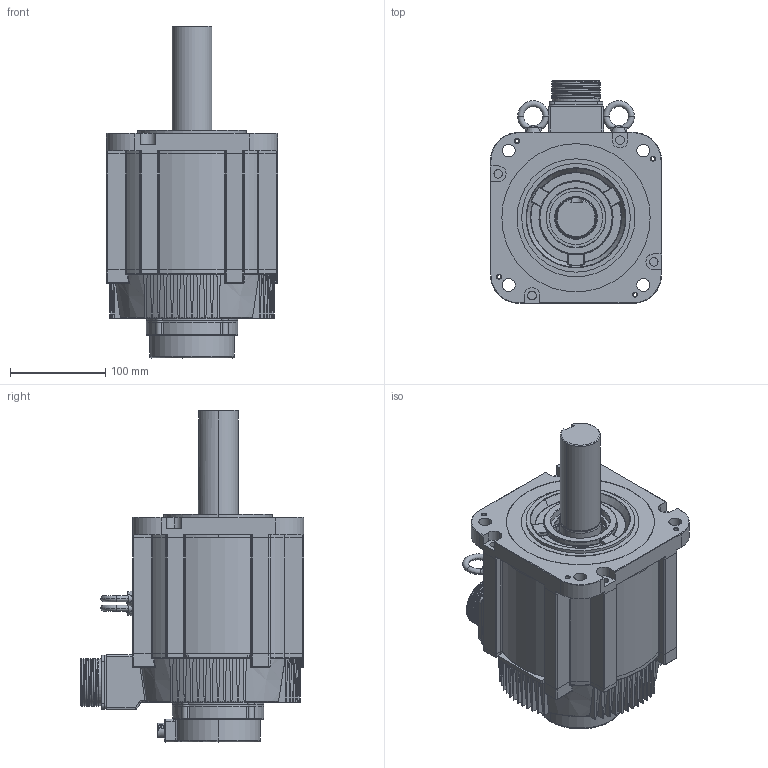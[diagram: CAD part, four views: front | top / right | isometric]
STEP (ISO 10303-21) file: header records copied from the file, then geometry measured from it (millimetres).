
FILE_DESCRIPTION(/* description */ ('SolidWorks IGES file using analytic representation for surfaces '),/* implementation_level */ '2;1');
FILE_NAME(/* name */ 'C:\Users\11755\Desktop\騰禾380V\外型圖\SMP系列_馬達外型圖(客戶版)\3D-STP\SMP-H550.stp',/* time_stamp */ '2021-07-28T11:17:57+08:00',/* author */ ('11755'),/* organization */ (''),/* preprocessor_version */ 'ST-DEVELOPER v17',/* originating_system */ 'Autodesk Inventor 2019',/* authorisation */ '');
FILE_SCHEMA (('AUTOMOTIVE_DESIGN { 1 0 10303 214 3 1 1 }'));
Products named in the file (1): SMP-H550
Bounding box: 180 x 234.8 x 349.3 mm (x, y, z)
Surface area: 316519.5 mm2 (no closed solid volume)
Topology: 0 solids, 1012 shells, 1019 faces, 5100 edges, 5076 vertices
Faces by surface type: cylinder 448, plane 260, cone 112, bspline 103, torus 94, sphere 2
Full cylindrical faces by diameter (mm): 49.6 x6
Entity records: 100880 total; most frequent: CARTESIAN_POINT 60542, DIRECTION 7869, ORIENTED_EDGE 5090, EDGE_CURVE 5083, VERTEX_POINT 5075, AXIS2_PLACEMENT_3D 2918, LINE 2033, VECTOR 2033
